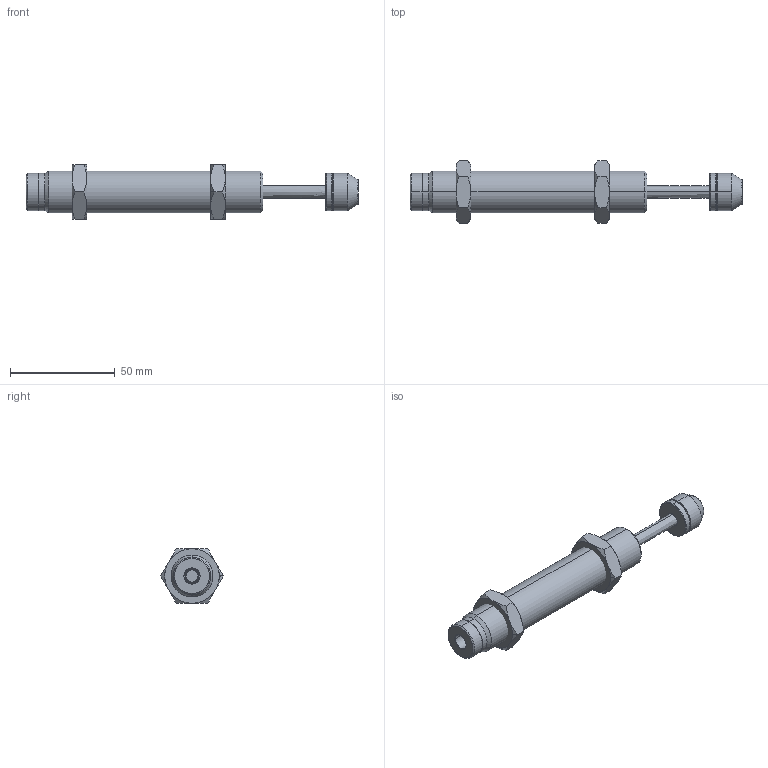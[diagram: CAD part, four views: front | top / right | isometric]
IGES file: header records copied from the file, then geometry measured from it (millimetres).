
Start section: SolidWorks IGES file using analytic representation for surfaces
Global section: file name: D:\IGS跡宒\AC2030(P2.0).IGS,1; native system: 5HSolidWorks 2013; preprocessor: SolidWorks 2013; author: Administrator; date: 160412.105846; units: inch
Bounding box: 158.3 x 30.02 x 26 mm (x, y, z)
Surface area: 13479 mm2 (no closed solid volume)
Topology: 0 solids, 0 shells, 98 faces, 1508 edges, 1508 vertices
Faces by surface type: revolution 74, bspline 24
